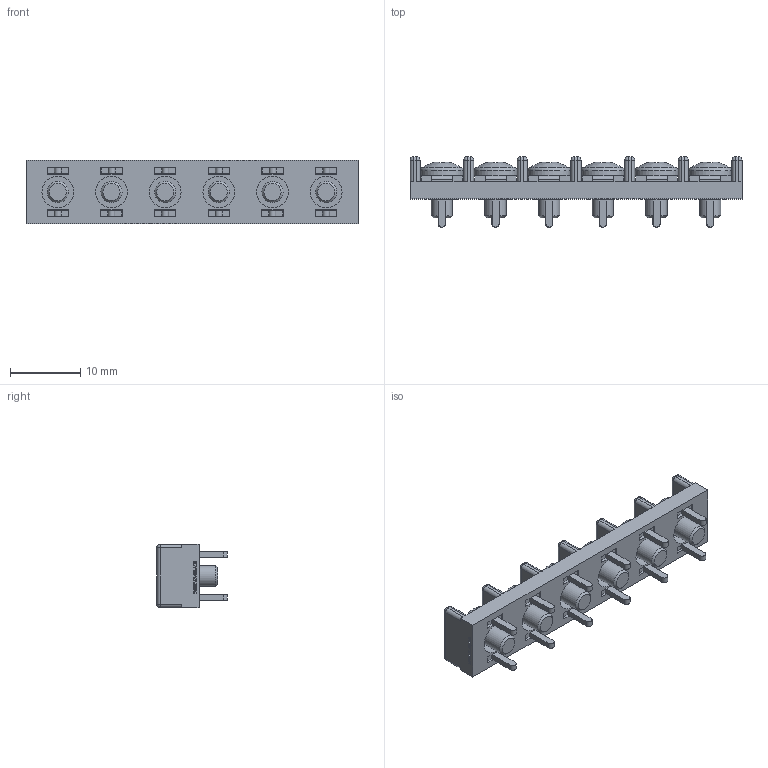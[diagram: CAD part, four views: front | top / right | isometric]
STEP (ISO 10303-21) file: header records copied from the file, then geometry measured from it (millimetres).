
FILE_DESCRIPTION(/* description */ ('Alibre Inc.'),/* implementation_level */ '2;1');
FILE_NAME(/* name */ 'export0',/* time_stamp */ '2015-11-28T15:41:20+09:00',/* author */ (''),/* organization */ (''),/* preprocessor_version */ 'ST-DEVELOPER v14',/* originating_system */ 'Alibre',/* authorisation */ '');
FILE_SCHEMA (('CONFIG_CONTROL_DESIGN'));
Length unit declared in the file: centimetre
Products named in the file (1): ID_1
Bounding box: 47.14 x 10 x 9 mm (x, y, z)
Volume: 1764.1 mm3; surface area: 3246.1 mm2
Topology: 1 solids, 81 shells, 1660 faces, 4282 edges, 2800 vertices
Faces by surface type: plane 1174, bspline 312, cylinder 104, sphere 34, cone 30, torus 6
Full cylindrical faces by diameter (mm): 3 x12, 4.5 x6, 6.1 x6
Entity records: 48157 total; most frequent: CARTESIAN_POINT 11515, ORIENTED_EDGE 8412, DIRECTION 5270, EDGE_CURVE 4206, VECTOR 3142, LINE 3142, VERTEX_POINT 2788, EDGE_LOOP 1804
